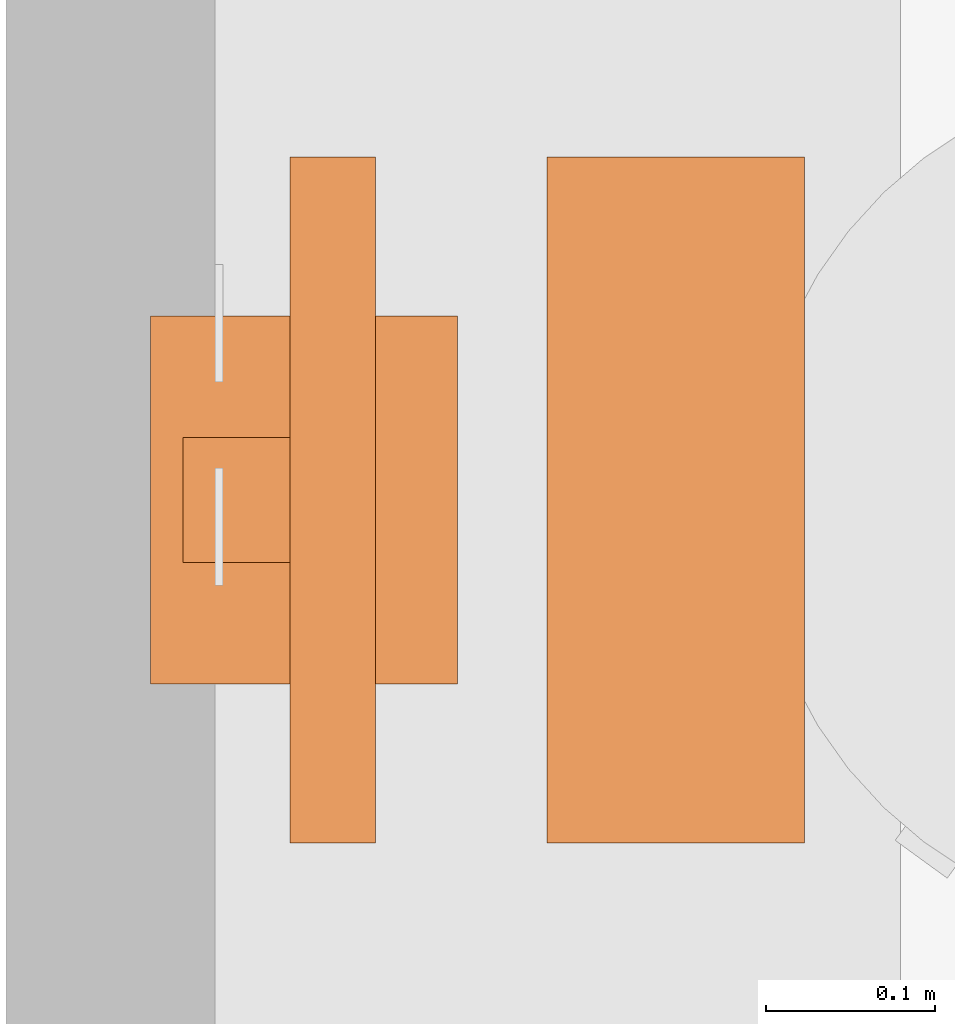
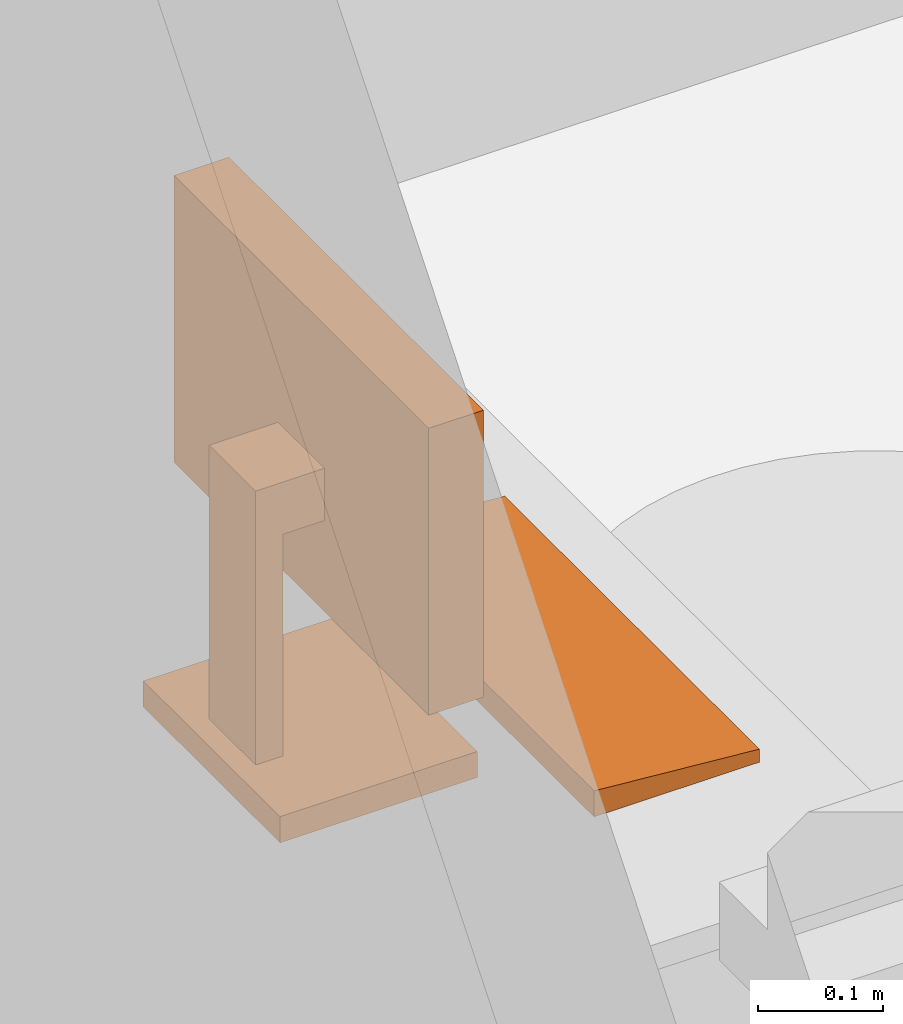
# One storey, part 10 of 11: 1 proxy.
"""IFC2X3 building model written with IfcOpenShell, lengths in feet."""

from ifc_helpers import new_model, entity, si_unit, converted_unit, derived_unit, direction, frame, origin, place, context, subcontext, project, spatial, faceted_brep, source, transform, mapped, type_object, type_shapes, element, save


model = new_model("IFC2X3")

# Units and contexts
model_context = context("Model", 3, precision=0.0001, world=origin(), true_north=direction((6.12303176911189e-17, 1.0)))
body_context = subcontext(model_context, "Body", "Model", "MODEL_VIEW")
ifc_project = project(units=[converted_unit("LENGTHUNIT", "FOOT", entity("IfcRatioMeasure", 0.3048), si_unit("LENGTHUNIT", "METRE"), dimensions=[1, 0, 0, 0, 0, 0, 0]), converted_unit("AREAUNIT", "SQUARE FOOT", entity("IfcRatioMeasure", 0.09290304), si_unit("AREAUNIT", "SQUARE_METRE"), dimensions=[2, 0, 0, 0, 0, 0, 0]), converted_unit("VOLUMEUNIT", "CUBIC FOOT", entity("IfcRatioMeasure", 0.028316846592), si_unit("VOLUMEUNIT", "CUBIC_METRE"), dimensions=[3, 0, 0, 0, 0, 0, 0]), converted_unit("PLANEANGLEUNIT", "DEGREE", entity("IfcRatioMeasure", 0.0174532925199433), si_unit("PLANEANGLEUNIT", "RADIAN"), dimensions=[0, 0, 0, 0, 0, 0, 0]), si_unit("MASSUNIT", "GRAM", prefix="KILO"), derived_unit("MASSDENSITYUNIT", [(si_unit("MASSUNIT", "GRAM", prefix="KILO"), 1), (si_unit("LENGTHUNIT", "METRE"), -3)]), si_unit("TIMEUNIT", "SECOND"), si_unit("FREQUENCYUNIT", "HERTZ"), si_unit("THERMODYNAMICTEMPERATUREUNIT", "DEGREE_CELSIUS"), derived_unit("THERMALTRANSMITTANCEUNIT", [(si_unit("MASSUNIT", "GRAM", prefix="KILO"), 1), (si_unit("THERMODYNAMICTEMPERATUREUNIT", "KELVIN"), -1), (si_unit("TIMEUNIT", "SECOND"), -3)]), derived_unit("VOLUMETRICFLOWRATEUNIT", [(si_unit("LENGTHUNIT", "METRE"), 3), (si_unit("TIMEUNIT", "SECOND"), -1)]), si_unit("ELECTRICCURRENTUNIT", "AMPERE"), si_unit("ELECTRICVOLTAGEUNIT", "VOLT"), si_unit("POWERUNIT", "WATT"), si_unit("FORCEUNIT", "NEWTON"), si_unit("ILLUMINANCEUNIT", "LUX"), si_unit("LUMINOUSFLUXUNIT", "LUMEN"), si_unit("LUMINOUSINTENSITYUNIT", "CANDELA"), derived_unit("USERDEFINED", [(si_unit("MASSUNIT", "GRAM", prefix="KILO"), -1), (si_unit("LENGTHUNIT", "METRE"), -2), (si_unit("TIMEUNIT", "SECOND"), 3), (si_unit("LUMINOUSFLUXUNIT", "LUMEN"), 1)]), derived_unit("LINEARVELOCITYUNIT", [(si_unit("LENGTHUNIT", "METRE"), 1), (si_unit("TIMEUNIT", "SECOND"), -1)]), si_unit("PRESSUREUNIT", "PASCAL"), derived_unit("USERDEFINED", [(si_unit("LENGTHUNIT", "METRE"), -2), (si_unit("MASSUNIT", "GRAM", prefix="KILO"), 1), (si_unit("TIMEUNIT", "SECOND"), -2)])], contexts=[model_context])

# Site, building, storey, space
site_placement = place(None, origin())
site = spatial("IfcSite", under=ifc_project, at=site_placement, Name="Default", CompositionType="ELEMENT")
building_placement = place(site_placement, origin())
building = spatial("IfcBuilding", under=site, at=building_placement, Name="EYE CLINIC:  OPTHALMOLOGY AND OPTOMETRY SERVICES (Ch. 233)", CompositionType="ELEMENT")
storey_placement = place(building_placement, origin())
storey = spatial("IfcBuildingStorey", under=building, at=storey_placement, Name="DATUM", CompositionType="ELEMENT", Elevation=0.0)
space_placement = place(storey_placement, origin())
space = spatial("IfcSpace", under=storey, at=space_placement, Name="(OPET2)", CompositionType="ELEMENT", InteriorOrExteriorSpace="INTERNAL")

# Proxy
building_element_proxy_type = type_object("IfcBuildingElementProxyType", Name="M1801 Computer", PredefinedType="NOTDEFINED")
shared_shape = source(origin(), body_context, "Body", "Brep", [
    faceted_brep([(0.666666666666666, 0.437223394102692, 1.41666666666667), (-0.666666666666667, 0.437223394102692, 1.41666666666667), (-0.666666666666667, 0.271109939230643, 1.41666666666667), (0.666666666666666, 0.271109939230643, 1.41666666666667), (0.666666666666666, 0.437223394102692, 0.500000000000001), (0.666666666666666, 0.271109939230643, 0.500000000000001), (-0.666666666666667, 0.271109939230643, 0.500000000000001), (-0.666666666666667, 0.437223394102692, 0.500000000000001), (-0.625, 0.271109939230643, 1.375), (0.625, 0.271109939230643, 1.375), (0.625, 0.271109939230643, 0.541666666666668), (-0.625, 0.271109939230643, 0.541666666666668), (0.625, 0.286812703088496, 1.375), (-0.625, 0.286812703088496, 1.375), (0.625, 0.286812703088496, 0.541666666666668), (-0.625, 0.286812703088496, 0.541666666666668)], [[[0, 1, 2, 3]], [[4, 5, 6, 7]], [[1, 0, 4, 7]], [[2, 1, 7, 6]], [[3, 2, 6, 5], [8, 9, 10, 11]], [[0, 3, 5, 4]], [[12, 9, 8, 13]], [[14, 15, 11, 10]], [[12, 13, 15, 14]], [[13, 8, 11, 15]], [[9, 12, 14, 10]]]),
    faceted_brep([(0.358011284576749, 0.111770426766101, 0.0833333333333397), (0.358011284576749, 0.111770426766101, 0.0), (0.358011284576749, 0.708333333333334, 0.0), (0.358011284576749, 0.708333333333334, 0.0833333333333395), (-0.358011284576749, 0.708333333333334, 0.0833333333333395), (-0.358011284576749, 0.708333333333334, 0.0), (-0.358011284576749, 0.111770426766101, 0.0), (-0.358011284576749, 0.111770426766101, 0.0833333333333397), (0.12128795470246, 0.645556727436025, 0.104166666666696), (0.12128795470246, 0.645556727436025, 0.0833333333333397), (-0.12128795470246, 0.645556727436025, 0.0833333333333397), (-0.12128795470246, 0.645556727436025, 0.104166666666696), (0.12128795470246, 0.645556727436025, 0.958333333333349), (-0.12128795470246, 0.645556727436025, 0.958333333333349), (0.12128795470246, 0.437223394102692, 0.958333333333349), (-0.12128795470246, 0.437223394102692, 0.958333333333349), (0.12128795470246, 0.437223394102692, 0.791666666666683), (-0.12128795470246, 0.437223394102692, 0.791666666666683), (0.12128795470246, 0.562223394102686, 0.791666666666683), (-0.12128795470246, 0.562223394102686, 0.791666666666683), (0.12128795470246, 0.562223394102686, 0.0833333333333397), (-0.12128795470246, 0.562223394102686, 0.0833333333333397)], [[[0, 1, 2, 3]], [[4, 5, 6, 7]], [[8, 9, 10, 11]], [[12, 8, 11, 13]], [[14, 12, 13, 15]], [[16, 14, 15, 17]], [[18, 16, 17, 19]], [[20, 18, 19, 21]], [[0, 3, 4, 7], [9, 20, 21, 10]], [[1, 0, 7, 6]], [[2, 1, 6, 5]], [[3, 2, 5, 4]], [[20, 9, 8, 12, 14, 16, 18]], [[10, 21, 19, 17, 15, 13, 11]]]),
    faceted_brep([(0.666666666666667, -0.5625, 0.0), (0.666666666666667, -0.0624999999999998, 0.0), (0.666666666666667, -0.0624999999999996, 0.0833333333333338), (0.666666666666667, -0.5625, 0.0416666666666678), (-0.666666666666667, -0.5625, 0.0), (-0.666666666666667, -0.5625, 0.0416666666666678), (-0.666666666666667, -0.0624999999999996, 0.0833333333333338), (-0.666666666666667, -0.0624999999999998, 0.0)], [[[0, 1, 2, 3]], [[4, 5, 6, 7]], [[1, 0, 4, 7]], [[2, 1, 7, 6]], [[3, 2, 6, 5]], [[0, 3, 5, 4]]]),
])
type_shapes(building_element_proxy_type, [shared_shape])
proxy_placement = place(space_placement, frame((-35.2768974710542, 6.72429235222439, 2.41666666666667), z_axis=(0.0, 0.0, 1.0), x_axis=(0.0, 1.0, 0.0)))
element("IfcBuildingElementProxy", 1, at=proxy_placement, inside=space, type_object=building_element_proxy_type, Name="M1801 - Computer, Microprocessing, With Flat Panel Monitor:M1801 Computer", ObjectType="M1801 Computer", context=body_context, shape_type="MappedRepresentation", body=[
    mapped(shared_shape, transform((0.0, 0.0, 0.0), scale=1.0)),
])

save(model, "model.ifc")
